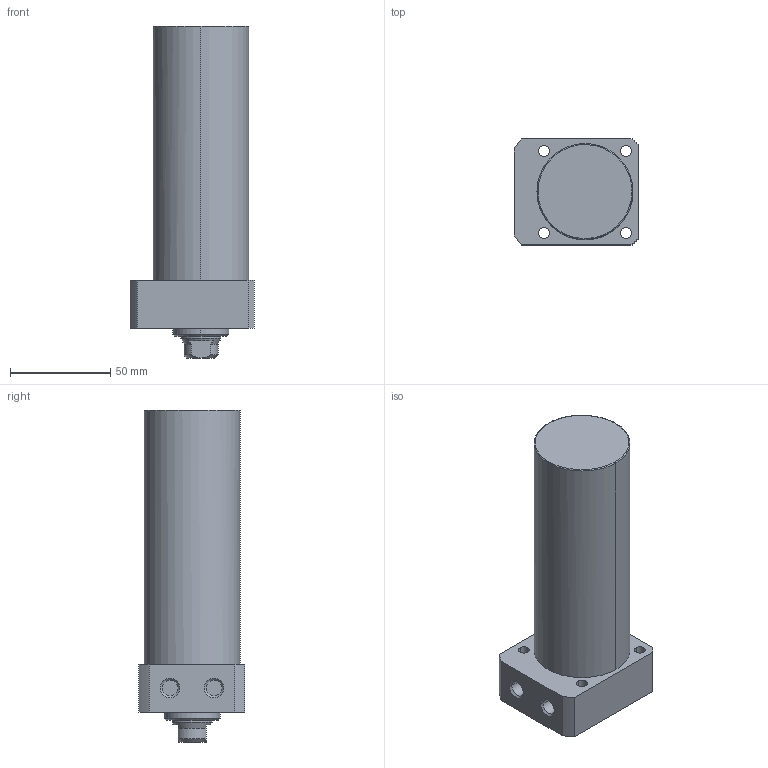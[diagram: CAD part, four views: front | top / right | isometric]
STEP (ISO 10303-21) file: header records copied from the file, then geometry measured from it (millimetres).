
FILE_DESCRIPTION((' '),'2;1');
FILE_NAME( 'TLLR-048CA-100.STEP.stp', '2025-10-24T16:34:31', (' '), ('--- Datakit www.datakit.com---'), ' Datakit CrossCadWare V2024.1 Dec 21 2023', 'Mastercam 2025', ' ');
FILE_SCHEMA(('AUTOMOTIVE_DESIGN { 1 0 10303 214 1 1 1 1 }'));
Length unit declared in the file: millimetre
Products named in the file (1): TLLR-048CA-100
Bounding box: 62 x 53 x 166 mm (x, y, z)
Volume: 308163.9 mm3; surface area: 34514.6 mm2
Topology: 1 solids, 1 shells, 63 faces, 177 edges, 122 vertices
Faces by surface type: cylinder 28, plane 19, cone 14, torus 2
Entity records: 2172 total; most frequent: CARTESIAN_POINT 409, DIRECTION 400, ORIENTED_EDGE 350, EDGE_CURVE 175, AXIS2_PLACEMENT_3D 169, VERTEX_POINT 122, CIRCLE 105, EDGE_LOOP 79
